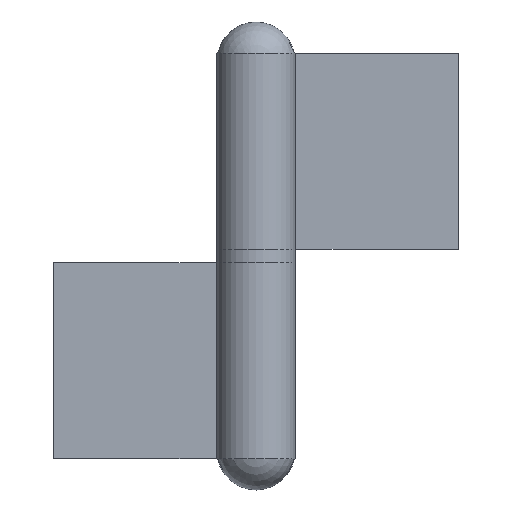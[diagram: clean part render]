
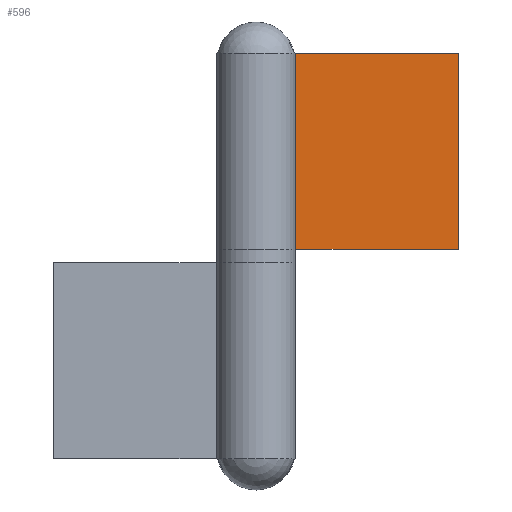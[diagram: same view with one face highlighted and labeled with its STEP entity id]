
A CAD part, front view. The second image highlights one B-rep face of the part: STEP entity #596.
In plain terms, the highlighted planar face has unit normal (0, -1, 0).
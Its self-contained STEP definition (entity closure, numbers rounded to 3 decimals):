
#258=CARTESIAN_POINT('',(-7.023,1.5,31.0));
#259=VERTEX_POINT('',#258);
#260=CARTESIAN_POINT('',(-6.816,1.5,31.0));
#261=VERTEX_POINT('',#260);
#262=CARTESIAN_POINT('',(-7.023,1.5,31.0));
#263=DIRECTION('',(1.0,0.0,0.0));
#264=VECTOR('',#263,0.207);
#265=LINE('',#262,#264);
#266=EDGE_CURVE('',#259,#261,#265,.T.);
#403=CARTESIAN_POINT('',(18.5,1.5,1.));
#404=VERTEX_POINT('',#403);
#421=CARTESIAN_POINT('',(18.5,1.5,31.0));
#422=VERTEX_POINT('',#421);
#429=CARTESIAN_POINT('',(18.5,1.5,31.0));
#430=DIRECTION('',(0.0,0.0,-1.0));
#431=VECTOR('',#430,30.);
#432=LINE('',#429,#431);
#433=EDGE_CURVE('',#422,#404,#432,.T.);
#554=CARTESIAN_POINT('',(-7.023,1.5,1.0));
#555=VERTEX_POINT('',#554);
#563=CARTESIAN_POINT('',(-7.023,1.5,31.0));
#564=DIRECTION('',(0.0,0.0,-1.0));
#565=VECTOR('',#564,30.0);
#566=LINE('',#563,#565);
#567=EDGE_CURVE('',#259,#555,#566,.T.);
#574=CARTESIAN_POINT('',(-7.023,1.5,31.0));
#575=DIRECTION('',(0.0,-1.0,0.0));
#576=DIRECTION('',(0.0,0.0,-1.0));
#577=AXIS2_PLACEMENT_3D('',#574,#575,#576);
#578=PLANE('',#577);
#579=CARTESIAN_POINT('',(-7.023,1.5,1.0));
#580=DIRECTION('',(1.0,0.0,0.0));
#581=VECTOR('',#580,25.523);
#582=LINE('',#579,#581);
#583=EDGE_CURVE('',#555,#404,#582,.T.);
#584=ORIENTED_EDGE('',*,*,#583,.T.);
#585=ORIENTED_EDGE('',*,*,#433,.F.);
#586=CARTESIAN_POINT('',(-6.816,1.5,31.0));
#587=DIRECTION('',(1.0,0.0,0.0));
#588=VECTOR('',#587,25.316);
#589=LINE('',#586,#588);
#590=EDGE_CURVE('',#261,#422,#589,.T.);
#591=ORIENTED_EDGE('',*,*,#590,.F.);
#592=ORIENTED_EDGE('',*,*,#266,.F.);
#593=ORIENTED_EDGE('',*,*,#567,.T.);
#594=EDGE_LOOP('',(#584,#585,#591,#592,#593));
#595=FACE_OUTER_BOUND('',#594,.T.);
#596=ADVANCED_FACE('',(#595),#578,.T.);
